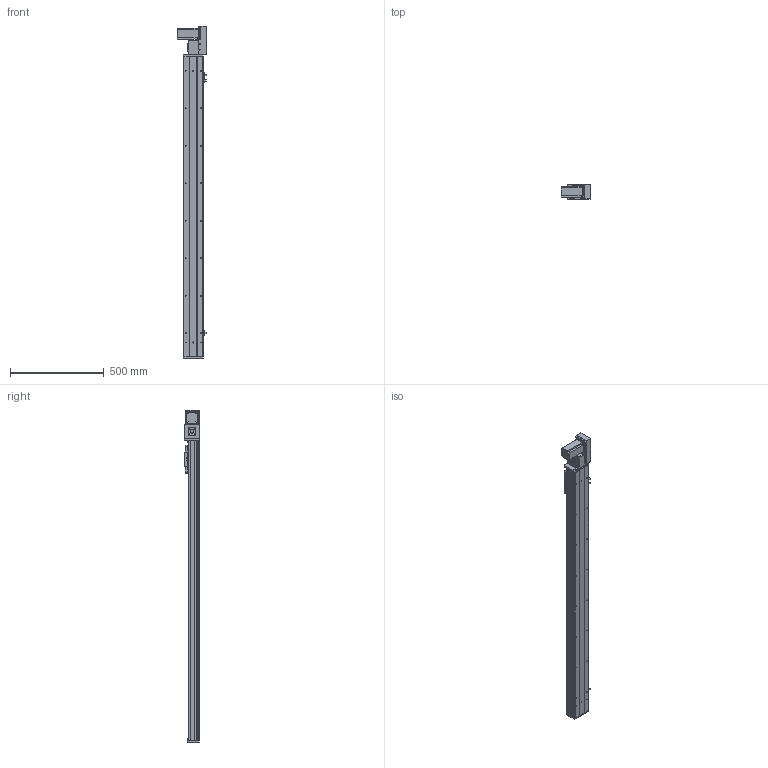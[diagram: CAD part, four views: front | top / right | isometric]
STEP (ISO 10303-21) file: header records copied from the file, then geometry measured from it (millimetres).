
FILE_DESCRIPTION (( 'STEP AP203' ), '1' );
FILE_NAME ('Y10CB-D90-S1350-BR-P400W.STEP', '2020-02-16T01:58:07', ( '微软用户' ), ( '微软中国' ), 'SwSTEP 2.0', 'SolidWorks 2017', '' );
FILE_SCHEMA (( 'CONFIG_CONTROL_DESIGN' ));
Length unit declared in the file: millimetre
Products named in the file (18): Y10C---詩湍揤啣; Y10B-耜蚾蟀諉啣----; 10CB9-掛极; 0B-萇儂楊擘啣; 10CB-耜裔; san松下电机400不带刹车----; Y135C-陔俋离換覜結え-; 0B-源倛裔啣; Y100-135俋离換覜ん--; 0B-埴倛裔啣; Y10B--々湍喘謫眊--666; Y俋欶BR----; 0CB-雄赽釱---; Y10CB-D90-S1350-BR-P400W; 10CB-詩湍-; 0Cb-俋欶---; Y10CB- 掛极耜裔啣-毀---; Y10B-々湍喘謫眊楊擘啣--
Assembly tree (21 placements, depth 2):
  Y10CB-D90-S1350-BR-P400W
    0CB-雄赽釱---
    0Cb-俋欶---
    Y10B-々湍喘謫眊楊擘啣--
    Y10B-耜蚾蟀諉啣----
    0B-萇儂楊擘啣
    san松下电机400不带刹车----
    0B-源倛裔啣
    0B-埴倛裔啣
    Y俋欶BR----
    10CB-詩湍-
    Y10CB- 掛极耜裔啣-毀---  x2
    Y10C---詩湍揤啣  x2
    10CB9-掛极
    10CB-耜裔
    Y135C-陔俋离換覜結え-
    Y100-135俋离換覜ん--  x3
    Y10B--々湍喘謫眊--666
Bounding box: 157.5 x 80.5 x 1772.5 mm (x, y, z)
Volume: 3747365.3 mm3; surface area: 1720869.6 mm2
Topology: 21 solids, 21 shells, 1014 faces, 2723 edges, 1778 vertices
Faces by surface type: cylinder 507, plane 483, cone 24
Entity records: 31904 total; most frequent: CARTESIAN_POINT 5765, DIRECTION 5130, ORIENTED_EDGE 4916, EDGE_CURVE 2458, AXIS2_PLACEMENT_3D 1833, VERTEX_POINT 1604, LINE 1464, VECTOR 1464
